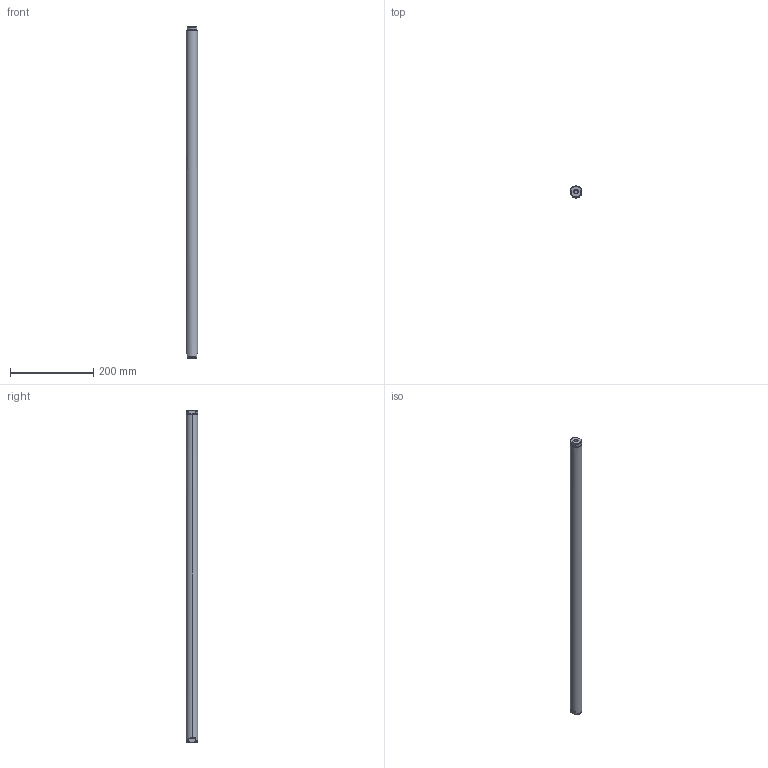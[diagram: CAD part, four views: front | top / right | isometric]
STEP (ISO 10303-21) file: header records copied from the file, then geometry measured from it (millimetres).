
FILE_DESCRIPTION (( 'STEP AP214' ), '1' );
FILE_NAME ('PL01-28x800!720.STEP', '2004-06-16T08:12:27', ( 'Mitarbeiter' ), ( 'Firma' ), 'SwSTEP 2.0', 'SolidWorks 2001287', '' );
FILE_SCHEMA (( 'AUTOMOTIVE_DESIGN' ));
Length unit declared in the file: millimetre
Products named in the file (1): PL01-28x800!720
Bounding box: 28 x 28 x 800 mm (x, y, z)
Volume: 489201.9 mm3; surface area: 72328.5 mm2
Topology: 1 solids, 1 shells, 41 faces, 104 edges, 68 vertices
Faces by surface type: plane 15, cylinder 10, torus 8, cone 8
Entity records: 1353 total; most frequent: CARTESIAN_POINT 374, ORIENTED_EDGE 208, DIRECTION 192, EDGE_CURVE 104, AXIS2_PLACEMENT_3D 78, VERTEX_POINT 68, EDGE_LOOP 44, ADVANCED_FACE 41
